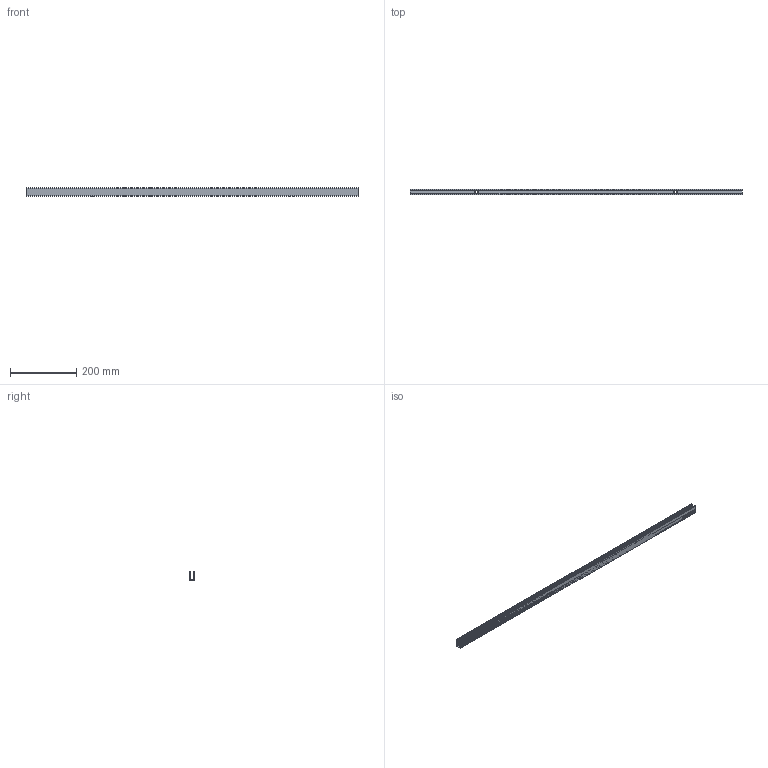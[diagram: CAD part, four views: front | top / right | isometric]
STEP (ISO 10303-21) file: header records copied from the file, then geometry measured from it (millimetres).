
FILE_DESCRIPTION(/* description */ (''),/* implementation_level */ '2;1');
FILE_NAME(/* name */ 'NF_1121+1128_STRAIGHT_PROFILE_L1000_R01.step',/* time_stamp */ '2026-07-16T11:47:54+02:00',/* author */ (''),/* organization */ (''),/* preprocessor_version */ 'ST-DEVELOPER v20.1',/* originating_system */ 'Autodesk Translation Framework v15.8.0.0',/* authorisation */ '');
FILE_SCHEMA (('AUTOMOTIVE_DESIGN { 1 0 10303 214 3 1 1 }'));
Length unit declared in the file: millimetre
Products named in the file (1): 2026-07-16-10-35-51-248
Bounding box: 1000 x 16.99 x 24.7 mm (x, y, z)
Volume: 128907.3 mm3; surface area: 233994 mm2
Topology: 3 solids, 3 shells, 187 faces, 543 edges, 362 vertices
Faces by surface type: plane 86, bspline 63, cylinder 38
Entity records: 7301 total; most frequent: CARTESIAN_POINT 2628, ORIENTED_EDGE 1086, DIRECTION 787, EDGE_CURVE 543, VERTEX_POINT 362, LINE 341, VECTOR 341, AXIS2_PLACEMENT_3D 223
